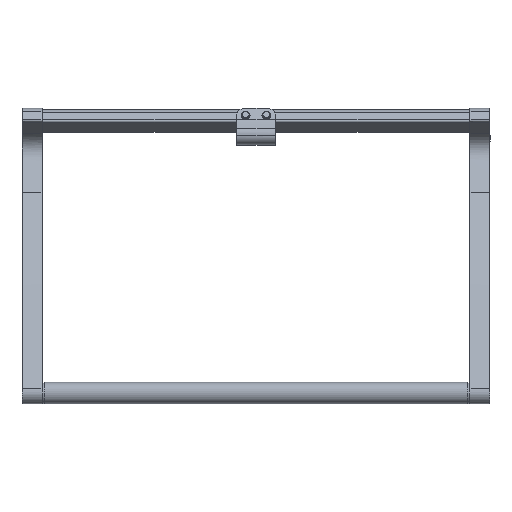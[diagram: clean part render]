
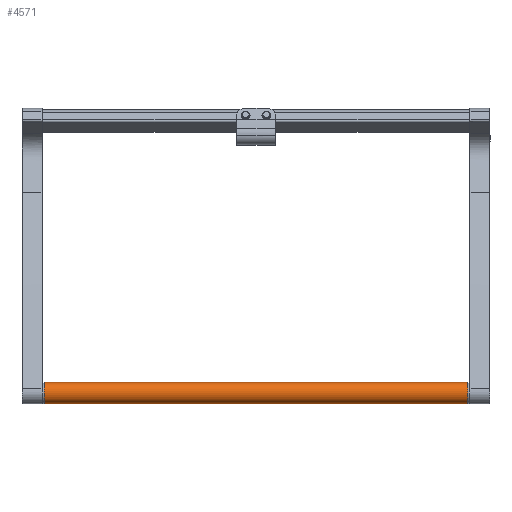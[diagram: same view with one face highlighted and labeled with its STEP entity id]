
A CAD part, top view. The second image highlights one B-rep face of the part: STEP entity #4571.
In plain terms, the highlighted cylindrical face has radius 18 mm (diameter 36 mm), a full revolution.
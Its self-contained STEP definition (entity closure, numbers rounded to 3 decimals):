
#444=FACE_OUTER_BOUND('',#751,.T.);
#751=EDGE_LOOP('',(#3618,#3619,#3620,#3621,#3622,#3623));
#1182=CIRCLE('',#5031,18.);
#1185=CIRCLE('',#5034,18.);
#1186=CIRCLE('',#5036,18.);
#1187=CIRCLE('',#5037,18.);
#1456=LINE('',#10557,#1706);
#1706=VECTOR('',#5902,18.);
#2043=VERTEX_POINT('',#10548);
#2044=VERTEX_POINT('',#10549);
#2046=VERTEX_POINT('',#10556);
#2047=VERTEX_POINT('',#10558);
#2593=EDGE_CURVE('',#2043,#2044,#1182,.T.);
#2596=EDGE_CURVE('',#2044,#2043,#1185,.T.);
#2597=EDGE_CURVE('',#2043,#2046,#1456,.T.);
#2598=EDGE_CURVE('',#2047,#2046,#1186,.T.);
#2599=EDGE_CURVE('',#2046,#2047,#1187,.T.);
#3618=ORIENTED_EDGE('',*,*,#2593,.F.);
#3619=ORIENTED_EDGE('',*,*,#2597,.T.);
#3620=ORIENTED_EDGE('',*,*,#2598,.F.);
#3621=ORIENTED_EDGE('',*,*,#2599,.F.);
#3622=ORIENTED_EDGE('',*,*,#2597,.F.);
#3623=ORIENTED_EDGE('',*,*,#2596,.F.);
#4366=CYLINDRICAL_SURFACE('',#5035,18.);
#4571=ADVANCED_FACE('',(#444),#4366,.T.);
#5031=AXIS2_PLACEMENT_3D('',#10550,#5892,#5893);
#5034=AXIS2_PLACEMENT_3D('',#10554,#5898,#5899);
#5035=AXIS2_PLACEMENT_3D('',#10555,#5900,#5901);
#5036=AXIS2_PLACEMENT_3D('',#10559,#5903,#5904);
#5037=AXIS2_PLACEMENT_3D('',#10560,#5905,#5906);
#5892=DIRECTION('center_axis',(1.,0.,0.));
#5893=DIRECTION('ref_axis',(0.,1.,0.));
#5898=DIRECTION('center_axis',(1.,0.,0.));
#5899=DIRECTION('ref_axis',(0.,1.,0.));
#5900=DIRECTION('center_axis',(1.,0.,0.));
#5901=DIRECTION('ref_axis',(0.,1.,0.));
#5902=DIRECTION('',(-1.,0.,0.));
#5903=DIRECTION('center_axis',(-1.,0.,0.));
#5904=DIRECTION('ref_axis',(0.,1.,0.));
#5905=DIRECTION('center_axis',(-1.,0.,0.));
#5906=DIRECTION('ref_axis',(0.,1.,0.));
#10548=CARTESIAN_POINT('',(354.,-540.,2180.));
#10549=CARTESIAN_POINT('',(354.,-522.,2162.));
#10550=CARTESIAN_POINT('Origin',(354.,-522.,2180.));
#10554=CARTESIAN_POINT('Origin',(354.,-522.,2180.));
#10555=CARTESIAN_POINT('Origin',(0.,-522.,2180.));
#10556=CARTESIAN_POINT('',(-354.,-540.,2180.));
#10557=CARTESIAN_POINT('',(0.,-540.,2180.));
#10558=CARTESIAN_POINT('',(-354.,-522.,2198.));
#10559=CARTESIAN_POINT('Origin',(-354.,-522.,2180.));
#10560=CARTESIAN_POINT('Origin',(-354.,-522.,2180.));
